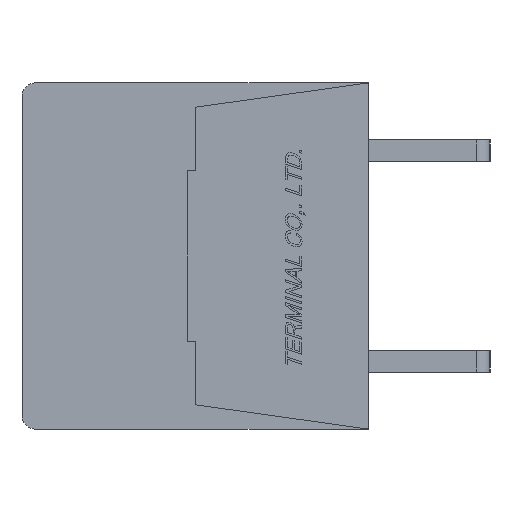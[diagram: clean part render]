
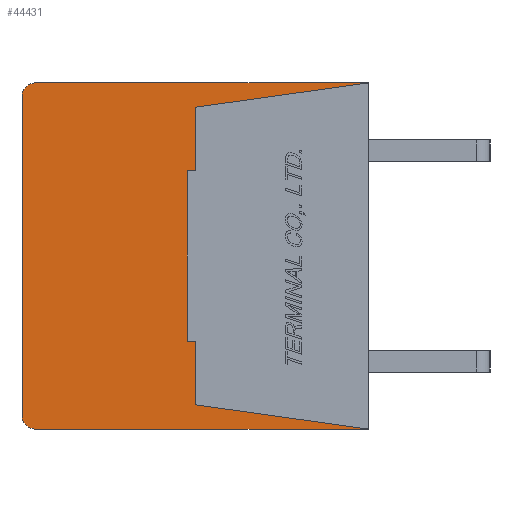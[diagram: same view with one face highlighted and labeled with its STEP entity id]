
A CAD part, left-side view. The second image highlights one B-rep face of the part: STEP entity #44431.
In plain terms, the highlighted planar face has unit normal (-1, 0, 0).
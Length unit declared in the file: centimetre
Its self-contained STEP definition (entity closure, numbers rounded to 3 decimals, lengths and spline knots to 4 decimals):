
#2266=CIRCLE('',#75977,0.05);
#2267=CIRCLE('',#75980,0.05);
#4083=VERTEX_POINT('',#61985);
#4084=VERTEX_POINT('',#61987);
#4085=VERTEX_POINT('',#61991);
#4086=VERTEX_POINT('',#61995);
#4087=VERTEX_POINT('',#61999);
#4088=VERTEX_POINT('',#62003);
#4089=VERTEX_POINT('',#62006);
#4090=VERTEX_POINT('',#62008);
#4091=VERTEX_POINT('',#62010);
#4092=VERTEX_POINT('',#62012);
#4093=VERTEX_POINT('',#62014);
#4094=VERTEX_POINT('',#62016);
#8731=VECTOR('',#51599,1.);
#8735=VECTOR('',#51608,1.);
#8738=VECTOR('',#51616,1.);
#8739=VECTOR('',#51617,1.);
#8740=VECTOR('',#51618,1.);
#8741=VECTOR('',#51619,1.);
#8742=VECTOR('',#51620,1.);
#8743=VECTOR('',#51621,1.);
#8744=VECTOR('',#51622,1.);
#8745=VECTOR('',#51623,1.);
#13949=LINE('',#61986,#8731);
#13953=LINE('',#61996,#8735);
#13956=LINE('',#62004,#8738);
#13957=LINE('',#62005,#8739);
#13958=LINE('',#62007,#8740);
#13959=LINE('',#62009,#8741);
#13960=LINE('',#62011,#8742);
#13961=LINE('',#62013,#8743);
#13962=LINE('',#62015,#8744);
#13963=LINE('',#62017,#8745);
#19823=EDGE_CURVE('',#4084,#4083,#13949,.T.);
#19826=EDGE_CURVE('',#4085,#4083,#2266,.T.);
#19828=EDGE_CURVE('',#4085,#4086,#13953,.T.);
#19830=EDGE_CURVE('',#4087,#4086,#2267,.T.);
#19832=EDGE_CURVE('',#4087,#4088,#13956,.T.);
#19833=EDGE_CURVE('',#4089,#4084,#13957,.T.);
#19834=EDGE_CURVE('',#4088,#4090,#13958,.T.);
#19835=EDGE_CURVE('',#4090,#4091,#13959,.T.);
#19836=EDGE_CURVE('',#4091,#4092,#13960,.T.);
#19837=EDGE_CURVE('',#4092,#4093,#13961,.T.);
#19838=EDGE_CURVE('',#4093,#4094,#13962,.T.);
#19839=EDGE_CURVE('',#4094,#4089,#13963,.T.);
#28839=ORIENTED_EDGE('',*,*,#19833,.T.);
#28840=ORIENTED_EDGE('',*,*,#19823,.T.);
#28841=ORIENTED_EDGE('',*,*,#19826,.F.);
#28842=ORIENTED_EDGE('',*,*,#19828,.T.);
#28843=ORIENTED_EDGE('',*,*,#19830,.F.);
#28844=ORIENTED_EDGE('',*,*,#19832,.T.);
#28845=ORIENTED_EDGE('',*,*,#19834,.T.);
#28846=ORIENTED_EDGE('',*,*,#19835,.T.);
#28847=ORIENTED_EDGE('',*,*,#19836,.T.);
#28848=ORIENTED_EDGE('',*,*,#19837,.T.);
#28849=ORIENTED_EDGE('',*,*,#19838,.T.);
#28850=ORIENTED_EDGE('',*,*,#19839,.T.);
#38715=EDGE_LOOP('',(#28839,#28840,#28841,#28842,#28843,#28844,#28845,#28846,
#28847,#28848,#28849,#28850));
#41633=FACE_BOUND('',#38715,.T.);
#44431=ADVANCED_FACE('',(#41633),#46832,.F.);
#46832=PLANE('',#75974);
#51485=DIRECTION('',(1.,0.,0.));
#51599=DIRECTION('',(0.,1.,0.));
#51604=DIRECTION('',(1.,0.,0.));
#51605=DIRECTION('',(0.,0.,-0.05));
#51608=DIRECTION('',(0.,0.,-1.));
#51612=DIRECTION('',(1.,0.,0.));
#51613=DIRECTION('',(0.,0.,-0.05));
#51616=DIRECTION('',(0.,-1.,0.));
#51617=DIRECTION('',(0.,-0.99,0.139));
#51618=DIRECTION('',(0.,0.99,0.139));
#51619=DIRECTION('',(0.,0.,1.));
#51620=DIRECTION('',(0.,1.,0.));
#51621=DIRECTION('',(0.,0.,1.));
#51622=DIRECTION('',(0.,-1.,0.));
#51623=DIRECTION('',(0.,0.,1.));
#61552=CARTESIAN_POINT('',(-1.,0.6345,0.));
#61985=CARTESIAN_POINT('',(-1.,1.23,0.64));
#61986=CARTESIAN_POINT('',(-1.,0.,0.64));
#61987=CARTESIAN_POINT('',(-1.,0.,0.64));
#61991=CARTESIAN_POINT('',(-1.,1.28,0.59));
#61992=CARTESIAN_POINT('',(-1.,1.23,0.59));
#61995=CARTESIAN_POINT('',(-1.,1.28,-0.59));
#61996=CARTESIAN_POINT('',(-1.,1.28,0.59));
#61999=CARTESIAN_POINT('',(-1.,1.23,-0.64));
#62000=CARTESIAN_POINT('',(-1.,1.23,-0.59));
#62003=CARTESIAN_POINT('',(-1.,0.,-0.64));
#62004=CARTESIAN_POINT('',(-1.,1.23,-0.64));
#62005=CARTESIAN_POINT('',(-1.,0.64,0.55));
#62006=CARTESIAN_POINT('',(-1.,0.64,0.55));
#62007=CARTESIAN_POINT('',(-1.,0.,-0.64));
#62008=CARTESIAN_POINT('',(-1.,0.64,-0.55));
#62009=CARTESIAN_POINT('',(-1.,0.64,-0.55));
#62010=CARTESIAN_POINT('',(-1.,0.64,-0.315));
#62011=CARTESIAN_POINT('',(-1.,0.64,-0.315));
#62012=CARTESIAN_POINT('',(-1.,0.67,-0.315));
#62013=CARTESIAN_POINT('',(-1.,0.67,-0.315));
#62014=CARTESIAN_POINT('',(-1.,0.67,0.315));
#62015=CARTESIAN_POINT('',(-1.,0.67,0.315));
#62016=CARTESIAN_POINT('',(-1.,0.64,0.315));
#62017=CARTESIAN_POINT('',(-1.,0.64,0.315));
#75974=AXIS2_PLACEMENT_3D('',#61552,#51485,$);
#75977=AXIS2_PLACEMENT_3D('',#61992,#51604,#51605);
#75980=AXIS2_PLACEMENT_3D('',#62000,#51612,#51613);
